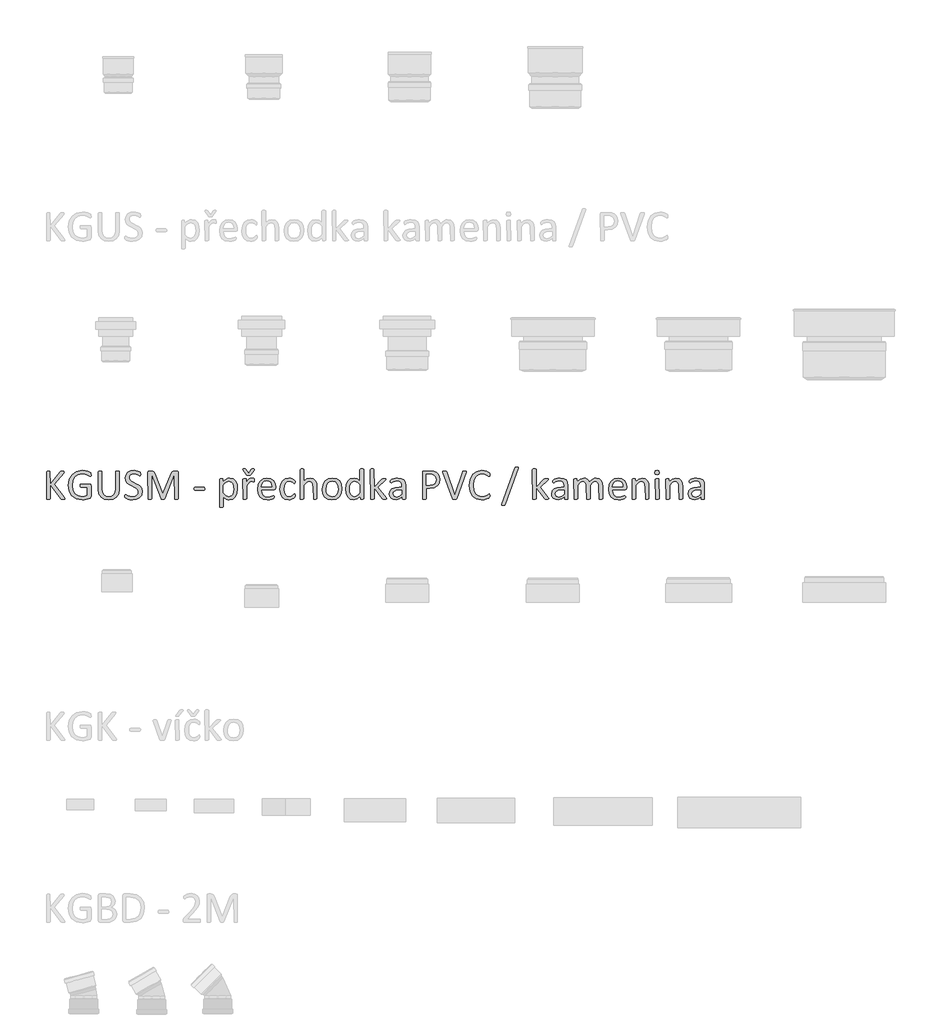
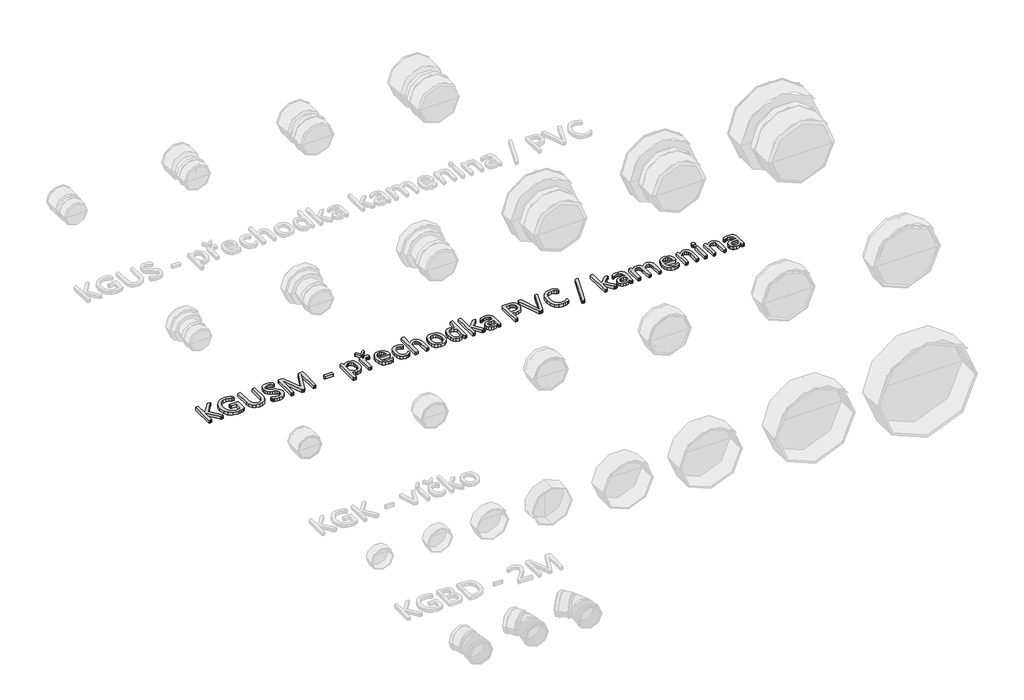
# One storey, part 3 of 11: 1 proxy.
"""IFC4 building model written with IfcOpenShell, lengths in millimetres."""

import ifcopenshell
import ifcopenshell.guid

model = None  # the IFC model being written
_history = None  # IfcOwnerHistory: only IFC2X3 demands one
_inside = {}  # id of a spatial element -> (the spatial element, [elements in it])
_under = {}  # id of a project, library or spatial element -> (it, [spatial elements below it])
_declared = {}  # id of a project -> (the project, [libraries it declares])
_typed = {}  # id of a type object -> (the type object, [elements of that type])
_made_of = {}  # id of a material, layer set ... -> (it, [elements and type objects made of it])


def new_model(schema):
    """Start an empty IFC model of exactly this schema.

    Asked for "IFC4X3", IfcOpenShell would pick the latest addendum, in which some entities
    have other attributes; the version numbers below select the first issue.
    IFC2X3 requires an IfcOwnerHistory on every rooted entity: one is made here for all.
    """
    global model, _history
    if schema == "IFC4X3":
        model = ifcopenshell.file(schema_version=(4, 3, 0, 0))
    else:
        model = ifcopenshell.file(schema=schema)
    _inside.clear()
    _under.clear()
    _declared.clear()
    _typed.clear()
    _made_of.clear()
    _history = None
    if model.schema == "IFC2X3":
        org = make("IfcOrganization", Name="unknown")
        user = make(
            "IfcPersonAndOrganization",
            ThePerson=make("IfcPerson", FamilyName="unknown"),
            TheOrganization=org,
        )
        app = make(
            "IfcApplication",
            ApplicationDeveloper=org,
            Version="unknown",
            ApplicationFullName="unknown",
            ApplicationIdentifier="unknown",
        )
        _history = make(
            "IfcOwnerHistory",
            OwningUser=user,
            OwningApplication=app,
            ChangeAction="ADDED",
            CreationDate=0,
        )
    return model


def make(cls, **values):
    """One entity of the class cls with the attributes given. An attribute that is None is left unset."""
    return model.create_entity(
        cls, **{name: value for name, value in values.items() if value is not None}
    )


def rooted(cls, **values):
    """An entity with a GlobalId (a new one), such as an element, a storey or a relation."""
    return make(cls, GlobalId=ifcopenshell.guid.new(), OwnerHistory=_history, **values)


def si_unit(unit_type, name, prefix=None):
    """IfcSIUnit, for example si_unit("LENGTHUNIT", "METRE", prefix="MILLI")."""
    return make("IfcSIUnit", UnitType=unit_type, Prefix=prefix, Name=name)


def assignment(units):
    """IfcUnitAssignment: the units of a project."""
    return None if units is None else make("IfcUnitAssignment", Units=units)


def point(xyz):
    """IfcCartesianPoint."""
    return None if xyz is None else make("IfcCartesianPoint", Coordinates=xyz)


def direction(xyz):
    """IfcDirection."""
    return None if xyz is None else make("IfcDirection", DirectionRatios=xyz)


def frame(location, z_axis=None, x_axis=None):
    """IfcAxis2Placement3D, a coordinate frame: its origin and axes. An axis left out is left unset."""
    return make(
        "IfcAxis2Placement3D",
        Location=point(location),
        Axis=direction(z_axis),
        RefDirection=direction(x_axis),
    )


def origin():
    """The frame at (0, 0, 0) with its axes left unset."""
    return frame((0.0, 0.0, 0.0))


def origin_with_axes():
    """The frame at (0, 0, 0) with the z axis (0, 0, 1) and the x axis (1, 0, 0) written out."""
    return frame((0.0, 0.0, 0.0), z_axis=(0.0, 0.0, 1.0), x_axis=(1.0, 0.0, 0.0))


def place(relative_to, where):
    """IfcLocalPlacement: puts the frame where relative to a parent placement (None: the world)."""
    return make(
        "IfcLocalPlacement", PlacementRelTo=relative_to, RelativePlacement=where
    )


def context(
    kind, dimensions, precision=None, world=None, true_north=None, identifier=None
):
    """IfcGeometricRepresentationContext, for example the 3D "Model" context."""
    return make(
        "IfcGeometricRepresentationContext",
        ContextIdentifier=identifier,
        ContextType=kind,
        CoordinateSpaceDimension=dimensions,
        Precision=precision,
        WorldCoordinateSystem=world,
        TrueNorth=true_north,
    )


def project(units=None, contexts=None):
    """IfcProject with its units and contexts."""
    return rooted(
        "IfcProject",
        Name="project",
        RepresentationContexts=contexts,
        UnitsInContext=assignment(units),
    )


def spatial(cls, under=None, at=None, **own):
    """A site, building, storey or space (cls), placed at a placement, below another one or the project."""
    s = rooted(cls, ObjectPlacement=at, **own)
    if under is not None:
        _under.setdefault(under.id(), (under, []))[1].append(s)
    return s


def polyline(points):
    """IfcPolyline through the points."""
    return make("IfcPolyline", Points=[point(p) for p in points])


def outline(outer, holes=None, kind="AREA"):
    """IfcArbitraryClosedProfileDef: a profile drawn as a closed curve; with holes, ...WithVoids."""
    if holes is None:
        return make("IfcArbitraryClosedProfileDef", ProfileType=kind, OuterCurve=outer)
    return make(
        "IfcArbitraryProfileDefWithVoids",
        ProfileType=kind,
        OuterCurve=outer,
        InnerCurves=holes,
    )


def extrude(swept, where, along, depth):
    """IfcExtrudedAreaSolid: the profile swept, set in the frame where, extruded along a direction by depth."""
    return make(
        "IfcExtrudedAreaSolid",
        SweptArea=swept,
        Position=where,
        ExtrudedDirection=direction(along),
        Depth=depth,
    )


def shape(context_of_items, identifier, shape_type, items):
    """IfcShapeRepresentation: the items that make up one representation, for example the "Body"."""
    return make(
        "IfcShapeRepresentation",
        ContextOfItems=context_of_items,
        RepresentationIdentifier=identifier,
        RepresentationType=shape_type,
        Items=items,
    )


def made_of(thing, what):
    """Note that an element or type object is made of a material, layer set ...; save() writes the relation."""
    if what is not None:
        _made_of.setdefault(what.id(), (what, []))[1].append(thing)
    return thing


def element(
    cls,
    number,
    at=None,
    inside=None,
    cuts=None,
    type_object=None,
    material=None,
    context=None,
    identifier="Body",
    shape_type=None,
    held_by="IfcProductDefinitionShape",
    body=None,
    shapes=None,
    **own,
):
    """One element of the class cls, such as IfcWall. Its Tag is "e" and its number.

    at: its placement. inside: the storey or other place that contains it. cuts: it is an
    opening in that element (IfcRelVoidsElement). A single representation is given by context,
    identifier, shape_type and body (its items); several are given by shapes. held_by: the class
    of the entity that holds the representations. save() writes the other relations.
    """
    e = rooted(cls, Tag="e%d" % number, ObjectPlacement=at, **own)
    if body is not None:
        shapes = [shape(context, identifier, shape_type, body)]
    if shapes is not None:
        e.Representation = make(held_by, Representations=shapes)
    if inside is not None:
        _inside.setdefault(inside.id(), (inside, []))[1].append(e)
    if cuts is not None:
        rooted(
            "IfcRelVoidsElement", RelatingBuildingElement=cuts, RelatedOpeningElement=e
        )
    if type_object is not None:
        _typed.setdefault(type_object.id(), (type_object, []))[1].append(e)
    return made_of(e, material)


def aggregate(whole, parts):
    """IfcRelAggregates: a whole, such as a stair, and the parts it consists of."""
    return rooted("IfcRelAggregates", RelatingObject=whole, RelatedObjects=parts)


def save(model, path):
    """Write the relations noted so far, then the file.

    IfcRelAggregates (storeys below a building ...), IfcRelContainedInSpatialStructure (elements
    in a storey), IfcRelDefinesByType, IfcRelAssociatesMaterial and IfcRelDeclares: one each for
    every whole, place, type object, material and project.
    """
    for whole, parts in _under.values():
        aggregate(whole, parts)
    for where, things in _inside.values():
        rooted(
            "IfcRelContainedInSpatialStructure",
            RelatedElements=things,
            RelatingStructure=where,
        )
    for kind, things in _typed.values():
        rooted("IfcRelDefinesByType", RelatedObjects=things, RelatingType=kind)
    for what, things in _made_of.values():
        rooted("IfcRelAssociatesMaterial", RelatedObjects=things, RelatingMaterial=what)
    for by, libraries in _declared.values():
        rooted("IfcRelDeclares", RelatingContext=by, RelatedDefinitions=libraries)
    model.write(path)


model = new_model("IFC4")

# Units and contexts
model_context = context("Model", 3, world=origin())
ifc_project = project(units=[si_unit("LENGTHUNIT", "METRE", prefix="MILLI")], contexts=[model_context])

# Site, building, storey
site = spatial("IfcSite", under=ifc_project)
building = spatial("IfcBuilding", under=site)
storey = spatial("IfcBuildingStorey", under=building, Name="Podlaží 1", Elevation=0.0)

# Proxy
placement = place(None, origin())
element("IfcBuildingElementProxy", 1, Name="120mm Arial", ObjectType="120mm Arial", at=placement, inside=storey, context=model_context, shape_type="SweptSolid", body=[
    extrude(outline(polyline([(-20477.3940185, 3343.2228429), (-20478.8234835, 3340.2010624), (-20481.3386182, 3339.6039441), (-20485.4098794, 3339.3687156), (-20490.6934717, 3339.640133), (-20493.7514412, 3340.6534247), (-20495.4342292, 3342.3362127), (-20539.5486061, 3401.9756656), (-20539.5486061, 3342.3362127), (-20541.2494886, 3340.1648734), (-20543.7465288, 3339.6039441), (-20547.6549395, 3339.3687156), (-20551.5271613, 3339.6039441), (-20554.0603905, 3340.1648734), (-20555.3812885, 3341.0876926), (-20555.3812885, 3456.8381721), (-20551.5271613, 3459.5704407), (-20547.6549395, 3459.8056691), (-20543.7465288, 3459.5704407), (-20541.2494886, 3459.0095114), (-20539.5486061, 3403.821304), (-20497.0989227, 3456.8381721), (-20495.7780246, 3458.2314482), (-20493.9866697, 3459.1180784), (-20491.399157, 3459.6247242), (-20487.4364628, 3459.8056691), (-20483.564241, 3459.5704407), (-20481.1938622, 3458.9733224), (-20480.2529486, 3454.4496989), (-20482.5509493, 3451.1203119), (-20522.3226476, 3403.821304), (-20479.4748853, 3347.2217261), (-20477.3940185, 3343.2228429)])), origin_with_axes(), (0.0, 0.0, 1.0), 15.0),
    extrude(outline(polyline([(-20365.8414616, 3444.0272702), (-20366.0224065, 3440.7521667), (-20366.5833359, 3438.381788), (-20367.5242496, 3437.0427954), (-20372.4278575, 3438.454166), (-20379.4123323, 3442.4349547), (-20389.8709499, 3446.4157434), (-20404.3103563, 3448.2251928), (-20422.1696221, 3444.5520105), (-20435.5595478, 3434.3829048), (-20443.9734876, 3418.9483012), (-20446.9047957, 3399.5510034), (-20443.7020702, 3378.814713), (-20434.8176736, 3363.5610544), (-20421.2648974, 3354.1519174), (-20404.0208444, 3350.9491919), (-20392.693691, 3352.27009), (-20382.0541284, 3356.1965953), (-20382.0541284, 3390.3228113), (-20409.0873028, 3390.3228113), (-20411.403398, 3392.0055993), (-20412.1633668, 3397.2349081), (-20411.9824219, 3400.4195391), (-20411.3853036, 3402.5908784), (-20371.4145658, 3404.2193829), (-20369.406077, 3403.857493), (-20367.578533, 3402.7537289), (-20366.293824, 3400.709051), (-20365.8414616, 3397.741554), (-20365.8414616, 3352.1434285), (-20366.6738083, 3347.9636004), (-20370.2022347, 3344.8694419), (-20377.1505205, 3341.9562283), (-20385.9444447, 3339.2782432), (-20395.1183533, 3337.6135497), (-20404.2741673, 3337.0526204), (-20429.1179079, 3341.431488), (-20447.610481, 3353.8985945), (-20459.1366738, 3373.2597033), (-20463.1174625, 3398.4653337), (-20458.8290674, 3424.7023504), (-20446.7238508, 3444.7329555), (-20427.9598603, 3457.5619519), (-20403.7313325, 3462.1217644), (-20390.8842416, 3460.9456223), (-20380.20849, 3458.1952592), (-20372.3554795, 3454.7573053), (-20367.9766119, 3451.7174302), (-20366.3119185, 3448.8585001), (-20365.8414616, 3444.0272702)])), origin_with_axes(), (0.0, 0.0, 1.0), 15.0),
    extrude(outline(polyline([(-20245.4045081, 3383.3021476), (-20248.6072336, 3363.7239048), (-20257.7268586, 3349.157837), (-20272.166265, 3340.1286844), (-20291.5454683, 3337.0526204), (-20309.6037736, 3339.9296449), (-20323.5908176, 3348.4521517), (-20332.5837812, 3362.5658572), (-20335.7322232, 3382.107911), (-20335.7322232, 3456.8381721), (-20334.0313408, 3459.0095114), (-20331.5704896, 3459.5704407), (-20327.5897008, 3459.8056691), (-20323.6993846, 3459.5704407), (-20321.1842499, 3459.0095114), (-20319.5195564, 3384.2068723), (-20317.5110675, 3369.62271), (-20311.7027349, 3359.2545648), (-20302.5469208, 3353.0300588), (-20290.5321767, 3350.9491919), (-20278.3002986, 3352.9938698), (-20269.2530515, 3359.1279033), (-20263.5894748, 3369.2427256), (-20261.6171749, 3383.3745256), (-20261.6171749, 3456.8381721), (-20259.9162924, 3459.0095114), (-20257.4011578, 3459.5704407), (-20253.4746525, 3459.8056691), (-20249.6205252, 3459.5704407), (-20247.159674, 3459.0095114), (-20245.8387759, 3458.1228812), (-20245.4045081, 3383.3021476)])), origin_with_axes(), (0.0, 0.0, 1.0), 15.0),
    extrude(outline(polyline([(-20148.1285072, 3372.9159079), (-20151.2407602, 3357.7165328), (-20159.9080229, 3346.4074739), (-20172.9541532, 3339.4049046), (-20189.0944421, 3337.0526204), (-20200.3130285, 3337.9573451), (-20209.5412205, 3340.1829679), (-20216.3447504, 3342.9152365), (-20220.1626886, 3345.3218042), (-20221.7369096, 3348.1083563), (-20222.2435555, 3352.8672083), (-20222.0626105, 3356.3956347), (-20221.5016812, 3358.6574465), (-20215.5304981, 3358.7660134), (-20209.3602756, 3355.6175714), (-20200.294934, 3352.4329405), (-20188.0449614, 3350.9491919), (-20178.400596, 3352.3605625), (-20170.8913809, 3356.3413512), (-20166.0420564, 3362.6382352), (-20164.341174, 3371.1426475), (-20166.7296472, 3379.9727607), (-20173.0084367, 3386.3963061), (-20181.8928334, 3391.4627645), (-20192.1343171, 3396.167333), (-20202.3215173, 3401.4690198), (-20211.169725, 3408.3087386), (-20217.502798, 3417.5731196), (-20219.9274602, 3430.2754546), (-20217.1590026, 3443.8644197), (-20209.4688426, 3453.8525806), (-20197.7436103, 3460.0047086), (-20183.050881, 3462.1217644), (-20174.9264531, 3461.3437012), (-20167.2362931, 3459.2809288), (-20160.7946531, 3456.4039042), (-20157.0852818, 3453.8344861), (-20155.9272342, 3452.332643), (-20155.1672654, 3449.0213506), (-20155.0767929, 3446.0538535), (-20155.2215489, 3442.9777895), (-20155.6377223, 3440.7340722), (-20160.8670311, 3440.3721824), (-20166.2953794, 3443.5387188), (-20173.8950669, 3446.7595388), (-20183.7384718, 3448.2251928), (-20192.5866795, 3446.9042948), (-20198.8111855, 3443.3939629), (-20202.4843678, 3438.1827486), (-20203.7147934, 3431.7953921), (-20201.3625092, 3423.0738459), (-20195.0837197, 3416.596017), (-20186.163134, 3411.4209916), (-20175.9759338, 3406.6802341), (-20165.770639, 3401.4147363), (-20156.8500534, 3394.6473955), (-20150.5350749, 3385.4553924), (-20148.1285072, 3372.9159079)])), origin_with_axes(), (0.0, 0.0, 1.0), 15.0),
    extrude(outline(polyline([(-19995.26622, 3342.3362127), (-19997.0032914, 3340.1648734), (-19999.4822372, 3339.6039441), (-20003.4087424, 3339.3687156), (-20007.2628697, 3339.6039441), (-20009.7960989, 3340.1648734), (-20011.4788868, 3446.7414443), (-20052.8790896, 3341.8657558), (-20055.1589959, 3339.9839284), (-20057.4750911, 3339.5134716), (-20060.6597221, 3339.3687156), (-20064.0072035, 3339.5496606), (-20066.3413933, 3340.0563064), (-20067.7889528, 3340.8524642), (-20108.6825098, 3446.7414443), (-20108.6825098, 3342.3362127), (-20110.4919592, 3340.1648734), (-20113.0251884, 3339.6039441), (-20117.0059771, 3339.3687156), (-20120.8781989, 3339.6039441), (-20123.3571446, 3340.1648734), (-20124.9675546, 3452.5678715), (-20122.8866877, 3458.1409757), (-20118.2364027, 3459.8056691), (-20108.3568089, 3459.8056691), (-20103.0370276, 3459.2447398), (-20099.0562388, 3457.4895739), (-20096.2154032, 3454.4316044), (-20094.2069144, 3450.0708313), (-20060.1168873, 3363.253448), (-20025.0135685, 3449.8175083), (-20022.7336622, 3454.5401713), (-20020.0194881, 3457.6343298), (-20016.7443846, 3459.2990233), (-20012.5645565, 3459.8056691), (-20002.2145058, 3459.8056691), (-19999.4822372, 3459.3894958), (-19997.3108978, 3458.0866922), (-19995.8452438, 3455.8610694), (-19995.26622, 3452.5678715), (-19995.26622, 3342.3362127)])), origin_with_axes(), (0.0, 0.0, 1.0), 15.0),
    extrude(outline(polyline([(-19881.7775523, 3384.5687622), (-19882.6279935, 3380.0089496), (-19885.1069392, 3378.742335), (-19924.6976925, 3378.742335), (-19927.2490162, 3380.0451386), (-19928.0994575, 3384.5687622), (-19927.2490162, 3389.0561968), (-19924.6976925, 3390.3228113), (-19885.1069392, 3390.3228113), (-19882.0127807, 3387.2829363), (-19881.7775523, 3384.5687622)])), origin_with_axes(), (0.0, 0.0, 1.0), 15.0),
    extrude(outline(polyline([(-19742.8118367, 3384.6411402), (-19745.1279319, 3364.79148), (-19751.9314617, 3349.8454278), (-19763.0595757, 3340.3820073), (-19778.2408563, 3337.0526204), (-19784.9539137, 3337.7944946), (-19790.9974748, 3340.1467789), (-19796.8600909, 3344.1818511), (-19803.0303134, 3349.8997113), (-19803.0303134, 3307.6309728), (-19804.7131014, 3305.369161), (-19807.1558581, 3304.8082317), (-19811.1728358, 3304.6272867), (-19815.1174356, 3304.8082317), (-19817.6144758, 3305.369161), (-19818.8991849, 3306.3100747), (-19818.8991849, 3424.4852164), (-19815.5155144, 3427.2355796), (-19812.1499385, 3427.3803355), (-19808.7662681, 3427.253674), (-19806.5587398, 3426.7832172), (-19804.9845188, 3414.1351657), (-19797.8010046, 3420.9748846), (-19790.8346243, 3425.8061145), (-19783.6330156, 3428.7193281), (-19775.8523831, 3429.6964308), (-19760.653008, 3426.1318154), (-19750.4115242, 3416.3969775), (-19744.6393806, 3402.0299491), (-19742.8118367, 3384.6411402)]), holes=[polyline([(-19759.0245035, 3382.8678797), (-19759.9654172, 3395.1359468), (-19763.2043316, 3405.6669424), (-19769.3745542, 3413.0314016), (-19779.0008251, 3415.7998592), (-19784.6824963, 3414.949418), (-19790.346073, 3412.2352438), (-19796.3715395, 3407.3497304), (-19803.0303134, 3399.9128933), (-19803.0303134, 3366.365701), (-19791.4317426, 3354.9118862), (-19779.9055498, 3350.9491919), (-19770.3154679, 3353.7176495), (-19763.8376389, 3361.0821087), (-19760.2006456, 3371.3778759), (-19759.0245035, 3382.8678797)])]), origin_with_axes(), (0.0, 0.0, 1.0), 15.0),
    extrude(outline(polyline([(-19671.0128836, 3420.4320497), (-19671.1033561, 3417.1388518), (-19671.465246, 3415.0037015), (-19675.0117668, 3413.7913704), (-19677.3459566, 3414.6237171), (-19680.2591701, 3415.4198748), (-19683.7514075, 3415.7998592), (-19688.1664641, 3414.804662), (-19692.7081822, 3411.5476531), (-19697.6841681, 3405.540281), (-19703.4382172, 3396.3663724), (-19703.4382172, 3342.1914567), (-19707.5637619, 3339.5496606), (-19711.5807396, 3339.3687156), (-19715.5253394, 3339.5496606), (-19718.0223796, 3340.0924954), (-19719.6508841, 3424.5575944), (-19715.9234183, 3427.2355796), (-19712.2683304, 3427.3803355), (-19708.6856206, 3427.2355796), (-19706.4780923, 3426.6927447), (-19704.9943437, 3412.5428502), (-19698.7336487, 3421.1196405), (-19693.178639, 3426.3489493), (-19688.0036137, 3428.972651), (-19682.8104938, 3429.6964308), (-19680.1686977, 3429.5697693), (-19677.0564447, 3429.081218), (-19674.1251366, 3428.2669657), (-19672.2794982, 3427.3803355), (-19671.0490726, 3423.6890587), (-19671.0128836, 3420.4320497)])), origin_with_axes(), (0.0, 0.0, 1.0), 15.0),
    extrude(outline(polyline([(-19683.7514075, 3466.392065), (-19682.5933599, 3467.6767741), (-19679.300162, 3468.9433887), (-19676.4050429, 3469.0700502), (-19672.6232936, 3468.7624438), (-19670.8138442, 3467.8758136), (-19672.1709312, 3464.0759698), (-19687.1169835, 3443.5930023), (-19688.2931256, 3442.4349547), (-19689.8854411, 3441.7654584), (-19692.2015363, 3441.4035685), (-19695.5490178, 3441.2769071), (-19698.6974598, 3441.4035685), (-19700.9230825, 3441.8016474), (-19702.4611146, 3442.5254272), (-19718.4928364, 3464.0759698), (-19719.8861125, 3466.3015926), (-19717.9861906, 3468.7624438), (-19714.2225358, 3469.0700502), (-19711.1102828, 3468.9433887), (-19709.2284554, 3468.4910264), (-19706.9123601, 3466.392065), (-19695.3318838, 3450.2155872), (-19683.7514075, 3466.392065)])), origin_with_axes(), (0.0, 0.0, 1.0), 15.0),
    extrude(outline(polyline([(-19580.6851685, 3387.6810152), (-19582.4765234, 3382.5783678), (-19586.5839736, 3381.0584303), (-19640.9036452, 3381.0584303), (-19639.5465582, 3367.6685046), (-19635.0410291, 3357.4632098), (-19626.8261287, 3350.9130029), (-19614.4494947, 3348.6330967), (-19604.171822, 3349.7006718), (-19596.3550005, 3352.1072396), (-19590.9447467, 3354.5138073), (-19587.7420212, 3355.5813824), (-19585.4440204, 3352.6862634), (-19585.317359, 3350.0444672), (-19585.4078315, 3348.1083563), (-19589.859077, 3342.7161971), (-19596.2102445, 3340.2191569), (-19605.2574916, 3338.0297231), (-19616.2227551, 3337.0526204), (-19633.901076, 3339.9477394), (-19646.6576944, 3348.5607187), (-19654.4745159, 3362.9096526), (-19657.116312, 3382.9402577), (-19654.3478544, 3402.4823115), (-19646.3681825, 3417.1750408), (-19633.7744145, 3426.4575163), (-19617.2360468, 3429.6964308), (-19600.5891121, 3426.5660833), (-19589.2800532, 3418.134049), (-19582.7660353, 3405.7031314), (-19580.6851685, 3390.4675673), (-19580.6851685, 3387.6810152)]), holes=[polyline([(-19596.8978353, 3392.6389066), (-19598.0694538, 3403.2648983), (-19602.0909551, 3411.3305191), (-19608.8628196, 3416.4195956), (-19618.2855274, 3418.1159545), (-19627.9298929, 3416.0169931), (-19634.8600842, 3410.4257944), (-19639.1846683, 3402.3013665), (-19640.9036452, 3392.6389066), (-19596.8978353, 3392.6389066)])]), origin_with_axes(), (0.0, 0.0, 1.0), 15.0),
    extrude(outline(polyline([(-19497.3057391, 3356.0156503), (-19497.3962116, 3353.4824211), (-19497.7219125, 3351.6729717), (-19499.7123068, 3348.0359784), (-19503.6026231, 3344.507552), (-19509.7728456, 3340.7619917), (-19517.2096827, 3338.0840065), (-19525.5331501, 3337.0526204), (-19541.2391711, 3340.0563064), (-19552.6929859, 3348.8321361), (-19559.7317442, 3362.9820306), (-19562.1564064, 3382.3250449), (-19559.1889093, 3403.7670206), (-19551.0644814, 3418.4416554), (-19538.9230758, 3426.9279732), (-19523.7960786, 3429.6964308), (-19516.1602021, 3428.8821785), (-19509.3566723, 3426.7470282), (-19503.819757, 3423.7071532), (-19500.3094251, 3420.7577506), (-19498.8075821, 3418.8216397), (-19498.1199913, 3417.2836077), (-19497.7581015, 3415.3836858), (-19497.667629, 3412.7237952), (-19498.4818812, 3407.9106597), (-19500.4541811, 3406.5354782), (-19503.5845286, 3407.9830377), (-19508.0538687, 3411.1676687), (-19514.6221701, 3414.3522997), (-19523.6875117, 3415.7998592), (-19533.2097393, 3413.7008979), (-19540.2077849, 3407.4040139), (-19544.5097509, 3397.1082467), (-19545.9437396, 3383.0126357), (-19544.459991, 3369.0074972), (-19540.0811234, 3358.9469584), (-19532.9699872, 3352.9214918), (-19523.3256218, 3350.9491919), (-19514.2964692, 3352.7767358), (-19507.5653173, 3356.7937136), (-19502.7702764, 3360.7564078), (-19499.7304013, 3362.5296682), (-19497.4324006, 3358.9650529), (-19497.3057391, 3356.0156503)])), origin_with_axes(), (0.0, 0.0, 1.0), 15.0),
    extrude(outline(polyline([(-19404.6619287, 3342.2276457), (-19408.7874734, 3339.5496606), (-19412.7320731, 3339.3687156), (-19416.7490508, 3339.5496606), (-19419.1918076, 3340.0924954), (-19420.8745955, 3390.5761343), (-19421.9421707, 3401.9394766), (-19425.0363292, 3409.3763138), (-19430.301827, 3414.1532602), (-19437.7748531, 3415.7998592), (-19448.7582111, 3411.764787), (-19460.2482149, 3399.9128933), (-19460.2482149, 3342.2276457), (-19464.3737596, 3339.5496606), (-19468.3907373, 3339.3687156), (-19472.3353371, 3339.5496606), (-19474.8323773, 3340.1105899), (-19476.4608818, 3466.1025531), (-19472.3353371, 3468.8891052), (-19468.3907373, 3469.0700502), (-19464.3737596, 3468.8891052), (-19461.9310029, 3468.3281759), (-19460.6462938, 3467.3872622), (-19460.2482149, 3416.0169931), (-19447.2201791, 3426.3308548), (-19434.0111983, 3429.6964308), (-19420.1870047, 3426.8736897), (-19411.1216631, 3419.3282856), (-19406.1637717, 3408.2725496), (-19404.6619287, 3392.9646075), (-19404.6619287, 3342.2276457)])), origin_with_axes(), (0.0, 0.0, 1.0), 15.0),
    extrude(outline(polyline([(-19298.1215467, 3384.2792503), (-19300.7995319, 3365.2981258), (-19308.8153928, 3350.3520736), (-19322.1691296, 3340.5629522), (-19340.7521751, 3337.0526204), (-19358.6657244, 3340.1467789), (-19371.4042483, 3349.1397425), (-19379.0039359, 3363.4705819), (-19381.5009761, 3382.5783678), (-19378.8591799, 3401.5594923), (-19370.8976025, 3416.48745), (-19357.5981492, 3426.2222879), (-19338.9789147, 3429.6964308), (-19321.0472709, 3426.6022723), (-19308.308747, 3417.6093086), (-19300.6728704, 3403.2784692), (-19298.1215467, 3384.2792503)]), holes=[polyline([(-19314.3342136, 3383.1935806), (-19315.5827337, 3395.7692541), (-19319.6901838, 3406.1554938), (-19327.4165329, 3413.2123465), (-19339.5941275, 3415.7998592), (-19351.1565093, 3413.4294805), (-19359.1180868, 3406.7345176), (-19363.7683718, 3396.4930339), (-19365.2883093, 3383.5554705), (-19364.0397892, 3370.9074191), (-19359.89615, 3360.5573684), (-19352.1155175, 3353.5367046), (-19339.9560174, 3350.9491919), (-19328.4298246, 3353.3195707), (-19320.4139636, 3359.96025), (-19315.7998676, 3370.1655448), (-19314.3342136, 3383.1935806)])]), origin_with_axes(), (0.0, 0.0, 1.0), 15.0),
    extrude(outline(polyline([(-19205.8034372, 3342.2638347), (-19209.1871077, 3339.5496606), (-19212.4984001, 3339.3687156), (-19215.936354, 3339.5496606), (-19218.1800713, 3340.0201174), (-19219.8447647, 3352.3243735), (-19233.288974, 3341.0876926), (-19248.5426326, 3337.0526204), (-19263.9591417, 3340.6534247), (-19274.2910979, 3350.3882626), (-19280.081336, 3364.827669), (-19281.9088799, 3382.2888559), (-19279.6289736, 3401.9213821), (-19272.8978218, 3416.8674344), (-19261.8601803, 3426.3670438), (-19246.6246162, 3429.6964308), (-19233.4699189, 3426.4575163), (-19221.6904032, 3416.9579068), (-19221.6904032, 3466.0663641), (-19220.0257097, 3468.2738924), (-19217.5286695, 3468.8348218), (-19213.6926367, 3469.0700502), (-19209.675659, 3468.8348218), (-19207.2329023, 3468.2738924), (-19205.9120042, 3467.3510732), (-19205.8034372, 3342.2638347)]), holes=[polyline([(-19221.6904032, 3400.4557281), (-19233.3070684, 3411.873354), (-19244.9961117, 3415.7998592), (-19254.5861936, 3413.0494961), (-19260.9916446, 3405.7936039), (-19264.5743545, 3395.5883092), (-19265.6962131, 3384.0259274), (-19264.7552994, 3371.7940493), (-19261.4801959, 3361.1906757), (-19255.2918789, 3353.7538385), (-19245.6113245, 3350.9491919), (-19239.9296533, 3351.7634442), (-19234.3203601, 3354.4595238), (-19228.3310825, 3359.3450372), (-19221.6904032, 3366.7637799), (-19221.6904032, 3400.4557281)])]), origin_with_axes(), (0.0, 0.0, 1.0), 15.0),
    extrude(outline(polyline([(-19108.2017354, 3342.3000237), (-19112.2729966, 3339.5496606), (-19116.2718798, 3339.3687156), (-19120.3974245, 3339.5134716), (-19123.1477876, 3339.9658339), (-19124.9572371, 3340.8705586), (-19126.2238517, 3342.3000237), (-19161.4719264, 3387.8619601), (-19161.4719264, 3342.1914567), (-19165.5974711, 3339.5496606), (-19169.6144488, 3339.3687156), (-19173.5590485, 3339.5496606), (-19176.0560887, 3340.1105899), (-19177.6845932, 3466.1025531), (-19173.5590485, 3468.8891052), (-19169.6144488, 3469.0700502), (-19165.5974711, 3468.8891052), (-19163.1547144, 3468.3281759), (-19161.8700053, 3467.3872622), (-19161.4719264, 3389.9609215), (-19129.2637267, 3424.1957045), (-19127.6533167, 3425.6975475), (-19125.6267334, 3426.6927447), (-19122.8401812, 3427.2355796), (-19118.949865, 3427.3803355), (-19114.9690763, 3427.2355796), (-19112.3815636, 3426.7832172), (-19110.9520985, 3425.968965), (-19111.151138, 3422.4405386), (-19113.2681938, 3419.8892149), (-19145.2592596, 3390.0694884), (-19110.4816417, 3346.6065133), (-19108.7264758, 3344.0913786), (-19108.2017354, 3342.3000237)])), origin_with_axes(), (0.0, 0.0, 1.0), 15.0),
    extrude(outline(polyline([(-19027.1384013, 3342.1552677), (-19027.9345591, 3340.4724798), (-19030.1058984, 3339.640133), (-19034.1590651, 3339.3687156), (-19038.2665153, 3339.640133), (-19040.4921381, 3340.4724798), (-19041.1797288, 3342.1552677), (-19041.1797288, 3350.4787351), (-19053.3754179, 3340.8524642), (-19067.6338794, 3337.0526204), (-19079.5943401, 3338.7715973), (-19088.6958707, 3343.7475832), (-19094.5403923, 3351.7453497), (-19096.6212591, 3362.5296682), (-19093.7442345, 3374.7977353), (-19085.4931452, 3383.4469035), (-19072.3384479, 3388.6038344), (-19054.8229775, 3390.3228113), (-19043.3510681, 3390.3228113), (-19043.3510681, 3397.2349081), (-19044.3643598, 3406.2821552), (-19047.6213688, 3412.8323622), (-19053.4297014, 3416.7769619), (-19062.2055311, 3418.1159545), (-19072.2479754, 3416.6683949), (-19080.0286079, 3413.4837639), (-19085.6198066, 3410.299133), (-19088.9491936, 3408.8515734), (-19091.8081237, 3412.3799998), (-19091.9890686, 3415.0398905), (-19091.6633677, 3418.8397342), (-19090.0710522, 3421.4996249), (-19085.7283736, 3424.213799), (-19078.6353319, 3426.8917842), (-19069.8595022, 3428.900273), (-19060.2513257, 3429.6964308), (-19044.8710057, 3427.6517529), (-19034.6114274, 3421.6805698), (-19028.9116618, 3411.9276374), (-19027.1384013, 3398.3205778), (-19027.1384013, 3342.1552677)]), holes=[polyline([(-19043.3510681, 3378.742335), (-19056.234348, 3378.742335), (-19066.9824776, 3377.6747599), (-19074.5640707, 3374.5263179), (-19078.9972218, 3369.5322375), (-19080.4085923, 3362.8191801), (-19076.3554256, 3352.4691294), (-19064.9920832, 3348.6330967), (-19053.9906307, 3351.6910662), (-19043.3510681, 3361.0459197), (-19043.3510681, 3378.742335)])]), origin_with_axes(), (0.0, 0.0, 1.0), 15.0),
    extrude(outline(polyline([(-18881.2243999, 3424.7747283), (-18884.191897, 3408.5982505), (-18892.6963093, 3396.3120889), (-18906.2671799, 3388.4590784), (-18925.4473438, 3385.6906208), (-18939.1267814, 3385.6906208), (-18939.1267814, 3342.3362127), (-18940.8638529, 3340.1648734), (-18943.3247041, 3339.6039441), (-18947.2331148, 3339.3687156), (-18951.1415256, 3339.6039441), (-18953.6385658, 3340.1648734), (-18955.3394483, 3452.9659503), (-18953.3852429, 3458.2314482), (-18949.0063753, 3459.8056691), (-18923.1674375, 3459.8056691), (-18915.6763169, 3459.4799683), (-18907.1899991, 3458.0866922), (-18897.2018383, 3454.123998), (-18888.5888591, 3446.9766727), (-18883.1424163, 3437.1332679), (-18881.2243999, 3424.7747283)]), holes=[polyline([(-18897.4370668, 3423.5081137), (-18900.2236189, 3435.2876295), (-18907.1176212, 3442.3263877), (-18915.603939, 3445.2757903), (-18924.1445402, 3445.9090976), (-18939.1267814, 3445.9090976), (-18939.1267814, 3399.5871924), (-18924.5064301, 3399.5871924), (-18912.2926465, 3401.3785473), (-18904.1320296, 3406.3364387), (-18899.1379492, 3413.9180318), (-18897.4370668, 3423.5081137)])]), origin_with_axes(), (0.0, 0.0, 1.0), 15.0),
    extrude(outline(polyline([(-18808.95499, 3342.6981026), (-18809.9682817, 3341.0334091), (-18811.7777311, 3340.0201174), (-18814.7452282, 3339.5134716), (-18819.1240958, 3339.3687156), (-18822.7068056, 3339.4229991), (-18825.3486018, 3339.6582275), (-18827.2485237, 3340.0563064), (-18869.3182227, 3453.6173521), (-18870.096286, 3456.8924556), (-18869.3182227, 3458.7923775), (-18866.6221431, 3459.6247242), (-18861.6099682, 3459.8056691), (-18857.4844235, 3459.6609132), (-18855.1321393, 3459.1542674), (-18853.0693669, 3456.6572272), (-18818.6898279, 3356.2327842), (-18785.2150136, 3456.4762822), (-18784.5636118, 3458.1409757), (-18783.2789027, 3459.1542674), (-18780.6732956, 3459.6609132), (-18776.2039555, 3459.8056691), (-18771.6803319, 3459.5704407), (-18769.4004257, 3458.701905), (-18768.9299688, 3456.8200776), (-18769.8346935, 3453.5449741), (-18808.95499, 3342.6981026)])), origin_with_axes(), (0.0, 0.0, 1.0), 15.0),
    extrude(outline(polyline([(-18668.143636, 3355.4004375), (-18668.2341085, 3352.7586414), (-18668.5598094, 3350.7863415), (-18669.1750222, 3349.2844985), (-18670.4959203, 3347.728372), (-18674.4224255, 3344.9418198), (-18681.8592626, 3341.286732), (-18692.0826519, 3338.283046), (-18704.6945143, 3337.0526204), (-18726.0098285, 3341.0153146), (-18742.2405898, 3352.7043579), (-18752.5544515, 3371.7940493), (-18756.1552559, 3397.9948769), (-18752.2468451, 3425.0461458), (-18741.2634872, 3445.1853178), (-18724.3451351, 3457.7790858), (-18702.523175, 3462.1217644), (-18692.2816913, 3461.1265672), (-18683.0354048, 3458.6114325), (-18675.4900007, 3455.1011007), (-18670.9301881, 3451.8259972), (-18669.2835892, 3449.9079808), (-18668.6683764, 3448.4061378), (-18668.288392, 3446.3614599), (-18668.143636, 3443.5568133), (-18668.3426755, 3440.4626548), (-18668.9216993, 3438.3275045), (-18674.8566934, 3438.454166), (-18681.0631049, 3442.4349547), (-18690.2732024, 3446.4157434), (-18703.2831438, 3448.2251928), (-18718.301574, 3444.9500894), (-18729.8639558, 3435.305724), (-18737.3007929, 3419.7806479), (-18739.9425891, 3398.8272236), (-18737.4093599, 3378.1633112), (-18730.1715622, 3363.1629755), (-18718.5910859, 3354.0433504), (-18703.0298209, 3350.9491919), (-18690.2008245, 3352.7405469), (-18680.8640655, 3356.7394301), (-18674.5309925, 3360.7383133), (-18670.6406762, 3362.5296682), (-18668.288392, 3358.9469584), (-18668.143636, 3355.4004375)])), origin_with_axes(), (0.0, 0.0, 1.0), 15.0),
    extrude(outline(polyline([(-18603.9081815, 3317.5829446), (-18604.9033787, 3315.7011172), (-18606.4233162, 3314.633542), (-18608.7032225, 3314.0726127), (-18611.978326, 3313.8916678), (-18615.8324532, 3314.2173687), (-18618.202832, 3315.1401879), (-18619.2161236, 3316.6239364), (-18618.8542338, 3318.7048032), (-18562.7613017, 3472.3270591), (-18561.7661045, 3474.2088865), (-18560.282356, 3475.3126507), (-18558.0205442, 3475.87358), (-18554.6911573, 3476.018336), (-18550.8913135, 3475.6926351), (-18548.5752182, 3474.8060049), (-18547.543832, 3473.3222563), (-18547.8152495, 3471.2052005), (-18603.9081815, 3317.5829446)])), origin_with_axes(), (0.0, 0.0, 1.0), 15.0),
    extrude(outline(polyline([(-18418.0053479, 3342.3000237), (-18422.0766091, 3339.5496606), (-18426.0754924, 3339.3687156), (-18430.201037, 3339.5134716), (-18432.9514002, 3339.9658339), (-18434.7608496, 3340.8705586), (-18436.0274642, 3342.3000237), (-18471.2755389, 3387.8619601), (-18471.2755389, 3342.1914567), (-18475.4010836, 3339.5496606), (-18479.4180613, 3339.3687156), (-18483.3626611, 3339.5496606), (-18485.8597013, 3340.1105899), (-18487.4882057, 3466.1025531), (-18483.3626611, 3468.8891052), (-18479.4180613, 3469.0700502), (-18475.4010836, 3468.8891052), (-18472.9583269, 3468.3281759), (-18471.6736178, 3467.3872622), (-18471.2755389, 3389.9609215), (-18439.0673392, 3424.1957045), (-18437.4569292, 3425.6975475), (-18435.4303459, 3426.6927447), (-18432.6437938, 3427.2355796), (-18428.7534775, 3427.3803355), (-18424.7726888, 3427.2355796), (-18422.1851761, 3426.7832172), (-18420.7557111, 3425.968965), (-18420.9547505, 3422.4405386), (-18423.0718063, 3419.8892149), (-18455.0628721, 3390.0694884), (-18420.2852542, 3346.6065133), (-18418.5300883, 3344.0913786), (-18418.0053479, 3342.3000237)])), origin_with_axes(), (0.0, 0.0, 1.0), 15.0),
    extrude(outline(polyline([(-18336.9420138, 3342.1552677), (-18337.7381716, 3340.4724798), (-18339.9095109, 3339.640133), (-18343.9626776, 3339.3687156), (-18348.0701278, 3339.640133), (-18350.2957506, 3340.4724798), (-18350.9833414, 3342.1552677), (-18350.9833414, 3350.4787351), (-18363.1790305, 3340.8524642), (-18377.4374919, 3337.0526204), (-18389.3979526, 3338.7715973), (-18398.4994832, 3343.7475832), (-18404.3440048, 3351.7453497), (-18406.4248716, 3362.5296682), (-18403.5478471, 3374.7977353), (-18395.2967577, 3383.4469035), (-18382.1420604, 3388.6038344), (-18364.62659, 3390.3228113), (-18353.1546807, 3390.3228113), (-18353.1546807, 3397.2349081), (-18354.1679723, 3406.2821552), (-18357.4249813, 3412.8323622), (-18363.2333139, 3416.7769619), (-18372.0091436, 3418.1159545), (-18382.0515879, 3416.6683949), (-18389.8322204, 3413.4837639), (-18395.4234192, 3410.299133), (-18398.7528061, 3408.8515734), (-18401.6117362, 3412.3799998), (-18401.7926811, 3415.0398905), (-18401.4669802, 3418.8397342), (-18399.8746647, 3421.4996249), (-18395.5319861, 3424.213799), (-18388.4389444, 3426.8917842), (-18379.6631147, 3428.900273), (-18370.0549383, 3429.6964308), (-18354.6746182, 3427.6517529), (-18344.4150399, 3421.6805698), (-18338.7152743, 3411.9276374), (-18336.9420138, 3398.3205778), (-18336.9420138, 3342.1552677)]), holes=[polyline([(-18353.1546807, 3378.742335), (-18366.0379605, 3378.742335), (-18376.7860901, 3377.6747599), (-18384.3676832, 3374.5263179), (-18388.8008343, 3369.5322375), (-18390.2122048, 3362.8191801), (-18386.1590381, 3352.4691294), (-18374.7956957, 3348.6330967), (-18363.7942433, 3351.6910662), (-18353.1546807, 3361.0459197), (-18353.1546807, 3378.742335)])]), origin_with_axes(), (0.0, 0.0, 1.0), 15.0),
    extrude(outline(polyline([(-18188.7119172, 3342.2276457), (-18192.8193674, 3339.5496606), (-18196.7096836, 3339.3687156), (-18200.7266614, 3339.5496606), (-18203.2056071, 3340.0924954), (-18204.924584, 3392.3855837), (-18205.8112142, 3401.9394766), (-18208.6339553, 3409.3763138), (-18213.5918467, 3414.1532602), (-18220.666794, 3415.7998592), (-18230.7816163, 3411.764787), (-18241.9821082, 3399.9128933), (-18241.9821082, 3342.2276457), (-18246.1981253, 3339.5496606), (-18250.1246306, 3339.3687156), (-18254.0149468, 3339.5496606), (-18256.5662705, 3340.0924954), (-18258.194775, 3392.3855837), (-18259.1718777, 3401.9394766), (-18262.0850913, 3409.3763138), (-18266.9706047, 3414.1532602), (-18273.973174, 3415.7998592), (-18284.1241852, 3411.764787), (-18295.2522992, 3399.9128933), (-18295.2522992, 3342.2276457), (-18299.3778438, 3339.5496606), (-18303.3948216, 3339.3687156), (-18307.3394213, 3339.5496606), (-18309.8364615, 3340.0924954), (-18311.464966, 3424.5575944), (-18307.7375002, 3427.2355796), (-18304.0824123, 3427.3803355), (-18300.4997025, 3427.2355796), (-18298.2921742, 3426.6927447), (-18296.8084257, 3413.6647089), (-18283.4004054, 3425.8423035), (-18270.2818971, 3429.6964308), (-18261.162272, 3428.4298162), (-18254.0330413, 3424.8832953), (-18248.7675435, 3419.4368525), (-18245.1305502, 3412.3619053), (-18237.3137287, 3420.4501442), (-18230.1844979, 3425.8061145), (-18223.5076296, 3428.7736116), (-18216.9755172, 3429.6964308), (-18203.6217804, 3426.8736897), (-18194.8821397, 3419.3282856), (-18190.1232877, 3408.2725496), (-18188.7119172, 3394.8826239), (-18188.7119172, 3342.2276457)])), origin_with_axes(), (0.0, 0.0, 1.0), 15.0),
    extrude(outline(polyline([(-18086.8037258, 3387.6810152), (-18088.5950807, 3382.5783678), (-18092.7025309, 3381.0584303), (-18147.0222025, 3381.0584303), (-18145.6651154, 3367.6685046), (-18141.1595864, 3357.4632098), (-18132.944686, 3350.9130029), (-18120.568052, 3348.6330967), (-18110.2903793, 3349.7006718), (-18102.4735577, 3352.1072396), (-18097.063304, 3354.5138073), (-18093.8605785, 3355.5813824), (-18091.5625777, 3352.6862634), (-18091.4359163, 3350.0444672), (-18091.5263887, 3348.1083563), (-18095.9776343, 3342.7161971), (-18102.3288018, 3340.2191569), (-18111.3760489, 3338.0297231), (-18122.3413124, 3337.0526204), (-18140.0196333, 3339.9477394), (-18152.7762517, 3348.5607187), (-18160.5930732, 3362.9096526), (-18163.2348693, 3382.9402577), (-18160.4664117, 3402.4823115), (-18152.4867398, 3417.1750408), (-18139.8929718, 3426.4575163), (-18123.3546041, 3429.6964308), (-18106.7076694, 3426.5660833), (-18095.3986105, 3418.134049), (-18088.8845926, 3405.7031314), (-18086.8037258, 3390.4675673), (-18086.8037258, 3387.6810152)]), holes=[polyline([(-18103.0163926, 3392.6389066), (-18104.1880111, 3403.2648983), (-18108.2095124, 3411.3305191), (-18114.9813769, 3416.4195956), (-18124.4040847, 3418.1159545), (-18134.0484502, 3416.0169931), (-18140.9786414, 3410.4257944), (-18145.3032256, 3402.3013665), (-18147.0222025, 3392.6389066), (-18103.0163926, 3392.6389066)])]), origin_with_axes(), (0.0, 0.0, 1.0), 15.0),
    extrude(outline(polyline([(-17991.8438201, 3342.2276457), (-17995.9693648, 3339.5496606), (-17999.9139645, 3339.3687156), (-18003.9309422, 3339.5496606), (-18006.373699, 3340.0924954), (-18008.0564869, 3390.5761343), (-18009.1240621, 3401.9394766), (-18012.2182206, 3409.3763138), (-18017.4837184, 3414.1532602), (-18024.9567445, 3415.7998592), (-18035.9401025, 3411.764787), (-18047.4301063, 3399.9128933), (-18047.4301063, 3342.2276457), (-18051.555651, 3339.5496606), (-18055.5726287, 3339.3687156), (-18059.5172285, 3339.5496606), (-18062.0142687, 3340.0924954), (-18063.6427732, 3424.5575944), (-18059.9153073, 3427.2355796), (-18056.2602195, 3427.3803355), (-18052.6775097, 3427.2355796), (-18050.4699814, 3426.6927447), (-18048.9862328, 3413.6647089), (-18035.1439448, 3425.8423035), (-18021.2292787, 3429.6964308), (-18007.4050851, 3426.8736897), (-17998.321649, 3419.3282856), (-17993.3456631, 3408.2725496), (-17991.8438201, 3393.0369855), (-17991.8438201, 3342.2276457)])), origin_with_axes(), (0.0, 0.0, 1.0), 15.0),
    extrude(outline(polyline([(-17947.8380102, 3452.9659503), (-17949.8284045, 3445.5653022), (-17957.2109582, 3443.5930023), (-17964.4125669, 3445.5110187), (-17966.3667722, 3452.7488164), (-17964.3763779, 3460.1494645), (-17956.9938242, 3462.1217644), (-17949.7922155, 3460.203748), (-17947.8380102, 3452.9659503)])), origin_with_axes(), (0.0, 0.0, 1.0), 15.0),
    extrude(outline(polyline([(-17947.8380102, 3342.1914567), (-17951.9635548, 3339.5496606), (-17955.9805326, 3339.3687156), (-17959.9251323, 3339.5496606), (-17962.4221725, 3340.0924954), (-17964.050677, 3424.5575944), (-17959.9251323, 3427.1993906), (-17955.9805326, 3427.3803355), (-17951.9635548, 3427.1993906), (-17949.5207981, 3426.6565557), (-17947.8380102, 3342.1914567)])), origin_with_axes(), (0.0, 0.0, 1.0), 15.0),
    extrude(outline(polyline([(-17848.245914, 3342.2276457), (-17852.3714587, 3339.5496606), (-17856.3160584, 3339.3687156), (-17860.3330361, 3339.5496606), (-17862.7757928, 3340.0924954), (-17864.4585808, 3390.5761343), (-17865.526156, 3401.9394766), (-17868.6203145, 3409.3763138), (-17873.8858123, 3414.1532602), (-17881.3588384, 3415.7998592), (-17892.3421964, 3411.764787), (-17903.8322002, 3399.9128933), (-17903.8322002, 3342.2276457), (-17907.9577449, 3339.5496606), (-17911.9747226, 3339.3687156), (-17915.9193224, 3339.5496606), (-17918.4163626, 3340.0924954), (-17920.044867, 3424.5575944), (-17916.3174012, 3427.2355796), (-17912.6623134, 3427.3803355), (-17909.0796035, 3427.2355796), (-17906.8720752, 3426.6927447), (-17905.3883267, 3413.6647089), (-17891.5460386, 3425.8423035), (-17877.6313726, 3429.6964308), (-17863.807179, 3426.8736897), (-17854.7237429, 3419.3282856), (-17849.747757, 3408.2725496), (-17848.245914, 3393.0369855), (-17848.245914, 3342.2276457)])), origin_with_axes(), (0.0, 0.0, 1.0), 15.0),
    extrude(outline(polyline([(-17755.6021036, 3342.1552677), (-17756.3982613, 3340.4724798), (-17758.5696006, 3339.640133), (-17762.6227673, 3339.3687156), (-17766.7302175, 3339.640133), (-17768.9558403, 3340.4724798), (-17769.6434311, 3342.1552677), (-17769.6434311, 3350.4787351), (-17781.8391202, 3340.8524642), (-17796.0975816, 3337.0526204), (-17808.0580423, 3338.7715973), (-17817.1595729, 3343.7475832), (-17823.0040945, 3351.7453497), (-17825.0849614, 3362.5296682), (-17822.2079368, 3374.7977353), (-17813.9568474, 3383.4469035), (-17800.8021501, 3388.6038344), (-17783.2866797, 3390.3228113), (-17771.8147704, 3390.3228113), (-17771.8147704, 3397.2349081), (-17772.8280621, 3406.2821552), (-17776.085071, 3412.8323622), (-17781.8934037, 3416.7769619), (-17790.6692334, 3418.1159545), (-17800.7116777, 3416.6683949), (-17808.4923102, 3413.4837639), (-17814.0835089, 3410.299133), (-17817.4128958, 3408.8515734), (-17820.2718259, 3412.3799998), (-17820.4527709, 3415.0398905), (-17820.12707, 3418.8397342), (-17818.5347545, 3421.4996249), (-17814.1920759, 3424.213799), (-17807.0990341, 3426.8917842), (-17798.3232044, 3428.900273), (-17788.715028, 3429.6964308), (-17773.3347079, 3427.6517529), (-17763.0751297, 3421.6805698), (-17757.375364, 3411.9276374), (-17755.6021036, 3398.3205778), (-17755.6021036, 3342.1552677)]), holes=[polyline([(-17771.8147704, 3378.742335), (-17784.6980503, 3378.742335), (-17795.4461798, 3377.6747599), (-17803.0277729, 3374.5263179), (-17807.460924, 3369.5322375), (-17808.8722946, 3362.8191801), (-17804.8191278, 3352.4691294), (-17793.4557855, 3348.6330967), (-17782.454333, 3351.6910662), (-17771.8147704, 3361.0459197), (-17771.8147704, 3378.742335)])]), origin_with_axes(), (0.0, 0.0, 1.0), 15.0),
])

save(model, "model.ifc")
